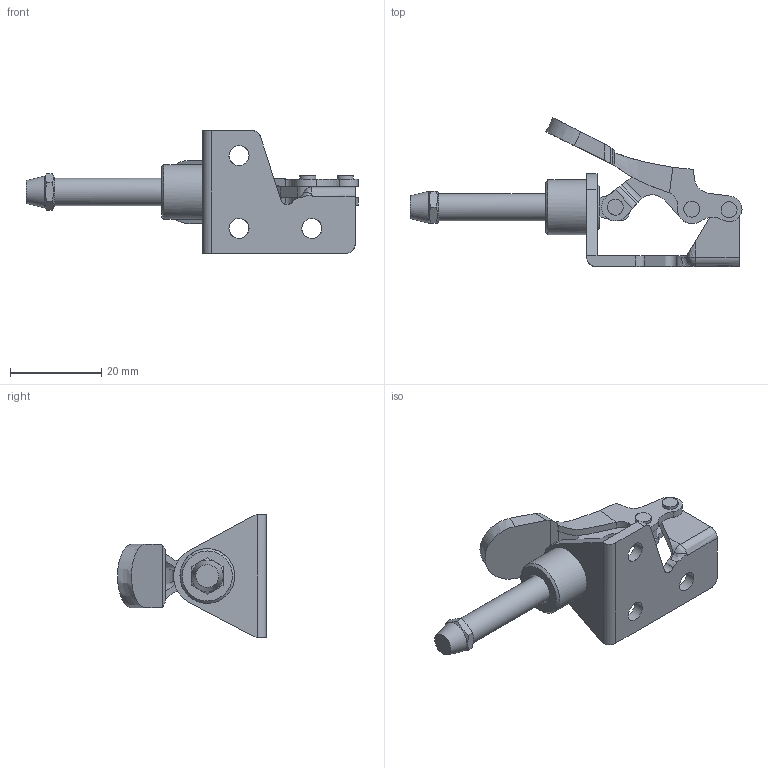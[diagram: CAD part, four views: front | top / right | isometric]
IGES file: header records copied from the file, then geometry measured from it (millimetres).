
Global section: file name: No.SL10(SL10-2S); native system: Autodesk Inventor 2020; preprocessor: unknown; author: 高橋善宗,,11,0,1; organization: 5H20160218.055430; date: 20251212.080926; units: millimetre
Bounding box: 72.93 x 32.72 x 27 mm (x, y, z)
Volume: 5930.9 mm3; surface area: 6664.4 mm2
Topology: 9 solids, 9 shells, 176 faces, 459 edges, 314 vertices
Faces by surface type: bspline 176
